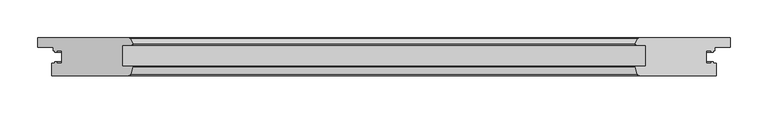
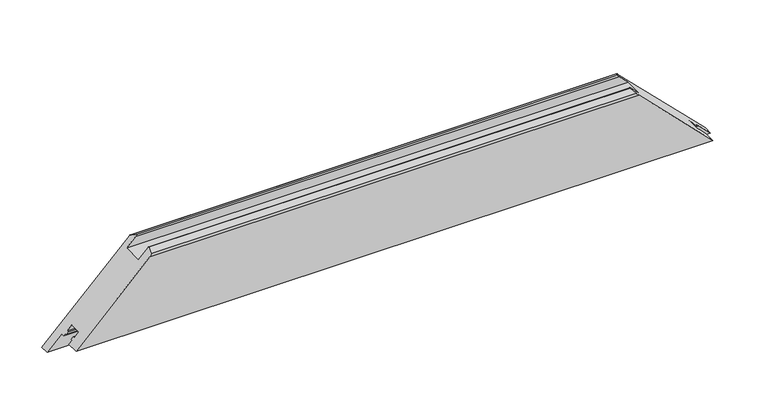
"""IFC4 building model written with IfcOpenShell, lengths in millimetres: proxy geometry, Weiku - Montante - Folha 02.2.01.019-039 : Weiku - Montante - Folha 02.2.01.019-039."""

from ifc_helpers import new_model, si_unit, frame, origin, place, context, project, spatial, ellipse_curve, source, transform, mapped, element, save
from ifc_brep_helpers import plane_surface, cylinder_surface, advanced_brep


def generic_models_0097f1d7(model_context):
    return source(origin(), model_context, "Body", "AdvancedBrep", [
        advanced_brep(
        [(438.0000338, -50.0, 17.9999662), (438.0000338, -33.1, 17.9999662), (433.8, -33.1, 22.2), (433.8, -31.1, 22.2), (431.0, -31.1, 25.0), (431.0, -33.1, 25.0), (424.5, -33.1, 31.5), (424.5, -16.9, 31.5), (431.0, -16.9, 25.0), (431.0, -18.9, 25.0), (433.8, -18.9, 22.2), (433.8, -16.9, 22.2), (436.0, -16.9, 20.0), (436.0, -12.5, 20.0), (456.0, -12.5, 0.0), (456.0, 0.0, 0.0), (335.4852854, 0.0, 120.5147146), (334.5913247, -0.5518546, 121.4086753), (331.0493385, -7.617411, 124.9506615), (332.2114874, -9.5, 123.7885126), (344.998059, -9.5, 111.001941), (344.998059, -37.5, 111.001941), (331.498059, -37.5, 124.501941), (331.0150961, -38.1294095, 124.9849039), (333.6000147, -47.7764571, 122.3999853), (336.4977922, -50.0, 119.5022078), (-336.4977922, -50.0, 119.5022078), (-333.6000147, -47.7764571, 122.3999853), (-331.0150961, -38.1294095, 124.9849039), (-331.498059, -37.5, 124.501941), (-344.998059, -37.5, 111.001941), (-344.998059, -9.5, 111.001941), (-332.2114874, -9.5, 123.7885126), (-331.0493385, -7.617411, 124.9506615), (-334.5913247, -0.5518546, 121.4086753), (-335.4852854, 0.0, 120.5147146), (-456.0, 0.0, 0.0), (-456.0, -12.5, 0.0), (-436.0, -12.5, 20.0), (-436.0, -16.9, 20.0), (-433.8, -16.9, 22.2), (-433.8, -18.9, 22.2), (-431.0, -18.9, 25.0), (-431.0, -16.9, 25.0), (-424.5, -16.9, 31.5), (-424.5, -33.1, 31.5), (-431.0, -33.1, 25.0), (-431.0, -31.1, 25.0), (-433.8, -31.1, 22.2), (-433.8, -33.1, 22.2), (-438.0000338, -33.1, 17.9999662), (-438.0000338, -50.0, 17.9999662)],
        [
            (0, 1),
            (1, 2),
            (2, 3),
            (3, 4),
            (4, 5),
            (5, 6),
            (6, 7),
            (7, 8),
            (8, 9),
            (9, 10),
            (10, 11),
            (11, 12),
            (12, 13),
            (13, 14),
            (14, 15),
            (15, 16),
            (16, 17, ellipse_curve(frame((335.4852854, -1.0, 120.5147146), z_axis=(0.7071067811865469, 0.0, 0.7071067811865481), x_axis=(-0.7071067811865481, 0.0, 0.7071067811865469)), 1.4142136, 1.0)),
            (17, 18),
            (18, 19, ellipse_curve(frame((332.2114874, -8.2, 123.7885126), z_axis=(0.7071067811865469, 0.0, 0.7071067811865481), x_axis=(-0.7071067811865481, 0.0, 0.7071067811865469)), 1.8384776, 1.3)),
            (19, 20),
            (20, 21),
            (21, 22),
            (22, 23, ellipse_curve(frame((331.498059, -38.0, 124.501941), z_axis=(0.7071067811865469, 0.0, 0.7071067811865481), x_axis=(-0.7071067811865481, 0.0, 0.7071067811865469)), 0.7071068, 0.5)),
            (23, 24),
            (24, 25, ellipse_curve(frame((336.4977922, -47.0, 119.5022078), z_axis=(0.7071067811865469, 0.0, 0.7071067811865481), x_axis=(-0.7071067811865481, 0.0, 0.7071067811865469)), 4.2426407, 3.0)),
            (25, 0),
            (26, 27, ellipse_curve(frame((-336.4977922, -47.0, 119.5022078), z_axis=(-0.7071067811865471, 0.0, 0.707106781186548), x_axis=(-0.7071067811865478, 0.0, -0.7071067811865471)), 4.2426407, 3.0)),
            (27, 28),
            (28, 29, ellipse_curve(frame((-331.498059, -38.0, 124.501941), z_axis=(-0.7071067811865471, 0.0, 0.707106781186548), x_axis=(-0.7071067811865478, 0.0, -0.7071067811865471)), 0.7071068, 0.5)),
            (29, 30),
            (30, 31),
            (31, 32),
            (32, 33, ellipse_curve(frame((-332.2114874, -8.2, 123.7885126), z_axis=(-0.7071067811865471, 0.0, 0.707106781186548), x_axis=(-0.7071067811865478, 0.0, -0.7071067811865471)), 1.8384776, 1.3)),
            (33, 34),
            (34, 35, ellipse_curve(frame((-335.4852854, -1.0, 120.5147146), z_axis=(-0.7071067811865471, 0.0, 0.707106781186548), x_axis=(-0.7071067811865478, 0.0, -0.7071067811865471)), 1.4142136, 1.0)),
            (35, 36),
            (36, 37),
            (37, 38),
            (38, 39),
            (39, 40),
            (40, 41),
            (41, 42),
            (42, 43),
            (43, 44),
            (44, 45),
            (45, 46),
            (46, 47),
            (47, 48),
            (48, 49),
            (49, 50),
            (50, 51),
            (51, 26),
            (25, 26),
            (51, 0),
            (50, 1),
            (49, 2),
            (48, 3),
            (47, 4),
            (46, 5),
            (45, 6),
            (44, 7),
            (43, 8),
            (42, 9),
            (41, 10),
            (40, 11),
            (39, 12),
            (38, 13),
            (37, 14),
            (36, 15),
            (35, 16),
            (34, 17),
            (33, 18),
            (32, 19),
            (31, 20),
            (30, 21),
            (29, 22),
            (28, 23),
            (27, 24),
        ],
        [
            plane_surface(frame((326.0, 13.0, 130.0), z_axis=(0.7071067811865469, 0.0, 0.7071067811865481), x_axis=(0.0, -1.0, 0.0))),
            plane_surface(frame((-484.2842712, 13.0, -28.2842712), z_axis=(-0.7071067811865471, 0.0, 0.707106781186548), x_axis=(0.0, -1.0, 0.0))),
            plane_surface(frame((-456.0, -50.0, 119.5022078), z_axis=(0.0, -1.0, 0.0), x_axis=(1.0, 0.0, 0.0))),
            plane_surface(frame((-456.0, -50.0, 17.9999662), z_axis=(0.0, 0.0, -1.0), x_axis=(1.0, 0.0, 0.0))),
            plane_surface(frame((-456.0, -33.1, 17.9999662), z_axis=(0.0, 1.0, 0.0), x_axis=(1.0, 0.0, 0.0))),
            plane_surface(frame((-456.0, -33.1, 22.2), z_axis=(0.0, 0.0, -1.0), x_axis=(1.0, 0.0, 0.0))),
            plane_surface(frame((-456.0, -31.1, 22.2), z_axis=(0.0, 1.0, 0.0), x_axis=(1.0, 0.0, 0.0))),
            plane_surface(frame((-456.0, -31.1, 25.0), z_axis=(0.0, 0.0, 1.0), x_axis=(1.0, 0.0, 0.0))),
            plane_surface(frame((-456.0, -33.1, 25.0), z_axis=(0.0, 1.0, 0.0), x_axis=(1.0, 0.0, 0.0))),
            plane_surface(frame((-456.0, -33.1, 31.5), z_axis=(0.0, 0.0, -1.0), x_axis=(1.0, 0.0, 0.0))),
            plane_surface(frame((-456.0, -16.9, 31.5), z_axis=(0.0, -1.0, 0.0), x_axis=(1.0, 0.0, 0.0))),
            plane_surface(frame((-456.0, -16.9, 25.0), z_axis=(0.0, 0.0, 1.0), x_axis=(1.0, 0.0, 0.0))),
            plane_surface(frame((-456.0, -18.9, 25.0), z_axis=(0.0, -1.0, 0.0), x_axis=(1.0, 0.0, 0.0))),
            plane_surface(frame((-456.0, -18.9, 22.2), z_axis=(0.0, 0.0, -1.0), x_axis=(1.0, 0.0, 0.0))),
            plane_surface(frame((-456.0, -16.9, 22.2), z_axis=(0.0, -1.0, 0.0), x_axis=(1.0, 0.0, 0.0))),
            plane_surface(frame((-456.0, -16.9, 20.0), z_axis=(0.0, 0.0, -1.0), x_axis=(1.0, 0.0, 0.0))),
            plane_surface(frame((-456.0, -12.5, 20.0), z_axis=(0.0, -1.0, 0.0), x_axis=(1.0, 0.0, 0.0))),
            plane_surface(frame((-456.0, -12.5, 0.0), z_axis=(0.0, 0.0, -1.0), x_axis=(1.0, 0.0, 0.0))),
            plane_surface(frame((-456.0, 0.0, 0.0), z_axis=(0.0, 1.0, 0.0), x_axis=(1.0, 0.0, 0.0))),
            cylinder_surface(frame((-456.0, -1.0, 120.5147146), z_axis=(-1.0, 0.0, 0.0), x_axis=(0.0, -1.0, 0.0)), 1.0),
            plane_surface(frame((-456.0, -0.5518546, 121.4086753), z_axis=(0.0, 0.4481453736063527, 0.8939606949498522), x_axis=(1.0, 0.0, 0.0))),
            cylinder_surface(frame((-456.0, -8.2, 123.7885126), z_axis=(-1.0, 0.0, 0.0), x_axis=(0.0, -1.0, 0.0)), 1.3),
            plane_surface(frame((-456.0, -9.5, 123.7885126), z_axis=(0.0, -1.0, 0.0), x_axis=(1.0, 0.0, 0.0))),
            plane_surface(frame((-456.0, -9.5, 111.001941), z_axis=(0.0, 0.0, 1.0), x_axis=(1.0, 0.0, 0.0))),
            plane_surface(frame((-456.0, -37.5, 111.001941), z_axis=(0.0, 1.0, 0.0), x_axis=(1.0, 0.0, 0.0))),
            cylinder_surface(frame((-456.0, -38.0, 124.501941), z_axis=(-1.0, 0.0, 0.0), x_axis=(0.0, -1.0, 0.0)), 0.5),
            plane_surface(frame((-456.0, -38.1294095, 124.9849039), z_axis=(0.0, -0.2588190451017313, 0.9659258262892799), x_axis=(1.0, 0.0, 0.0))),
            cylinder_surface(frame((-456.0, -47.0, 119.5022078), z_axis=(-1.0, 0.0, 0.0), x_axis=(0.0, -1.0, 0.0)), 3.0),
        ],
        [
            (0, [[1, 2, 3, 4, 5, 6, 7, 8, 9, 10, 11, 12, 13, 14, 15, 16, 17, 18, 19, 20, 21, 22, 23, 24, 25, 26]]),
            (1, [[27, 28, 29, 30, 31, 32, 33, 34, 35, 36, 37, 38, 39, 40, 41, 42, 43, 44, 45, 46, 47, 48, 49, 50, 51, 52]]),
            (2, [[53, -52, 54, -26]]),
            (3, [[-54, -51, 55, -1]]),
            (4, [[-55, -50, 56, -2]]),
            (5, [[-56, -49, 57, -3]]),
            (6, [[-57, -48, 58, -4]]),
            (7, [[-58, -47, 59, -5]]),
            (8, [[-59, -46, 60, -6]]),
            (9, [[-60, -45, 61, -7]]),
            (10, [[-61, -44, 62, -8]]),
            (11, [[-62, -43, 63, -9]]),
            (12, [[-63, -42, 64, -10]]),
            (13, [[-64, -41, 65, -11]]),
            (14, [[-65, -40, 66, -12]]),
            (15, [[-66, -39, 67, -13]]),
            (16, [[-14, -67, -38, 68]]),
            (17, [[-37, 69, -15, -68]]),
            (18, [[-36, 70, -16, -69]]),
            (19, [[-70, -35, 71, -17]]),
            (20, [[-71, -34, 72, -18]]),
            (21, [[-72, -33, 73, -19]]),
            (22, [[-73, -32, 74, -20]]),
            (23, [[-74, -31, 75, -21]]),
            (24, [[-75, -30, 76, -22]]),
            (25, [[-76, -29, 77, -23]]),
            (26, [[-77, -28, 78, -24]]),
            (27, [[-78, -27, -53, -25]]),
        ],
    ),
    ])


if __name__ == "__main__":
    model = new_model("IFC4")
    model_context = context("Model", 3, world=origin())
    ifc_project = project(units=[si_unit("LENGTHUNIT", "METRE", prefix="MILLI")], contexts=[model_context])
    site = spatial("IfcSite", under=ifc_project)
    building = spatial("IfcBuilding", under=site)
    placement = place(None, origin())
    generic_models_shape = generic_models_0097f1d7(model_context)
    element("IfcBuildingElementProxy", 1, Name="Weiku - Montante - Folha 02.2.01.019-039 : Weiku - Montante - Folha 02.2.01.019-039", ObjectType="Weiku - Montante - Folha 02.2.01.019-039 : Weiku - Montante - Folha 02.2.01.019-039", at=placement, inside=building, context=model_context, shape_type="MappedRepresentation", body=[
        mapped(generic_models_shape, transform((0.0, 0.0, 0.0), x_axis=(1.0, 0.0, 0.0), y_axis=(0.0, 1.0, 0.0), z_axis=(0.0, 0.0, 1.0))),
    ])
    save(model, "model.ifc")
